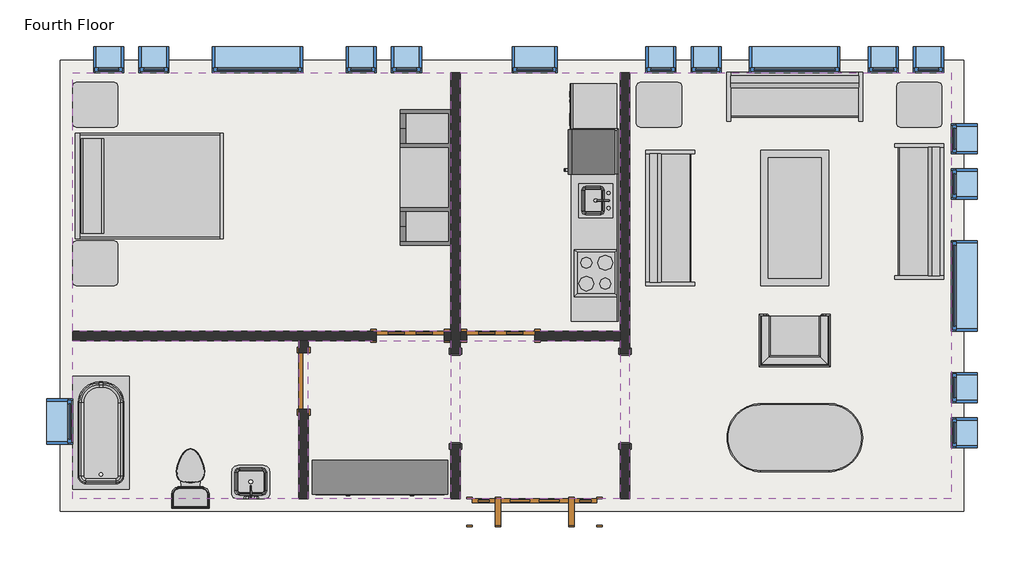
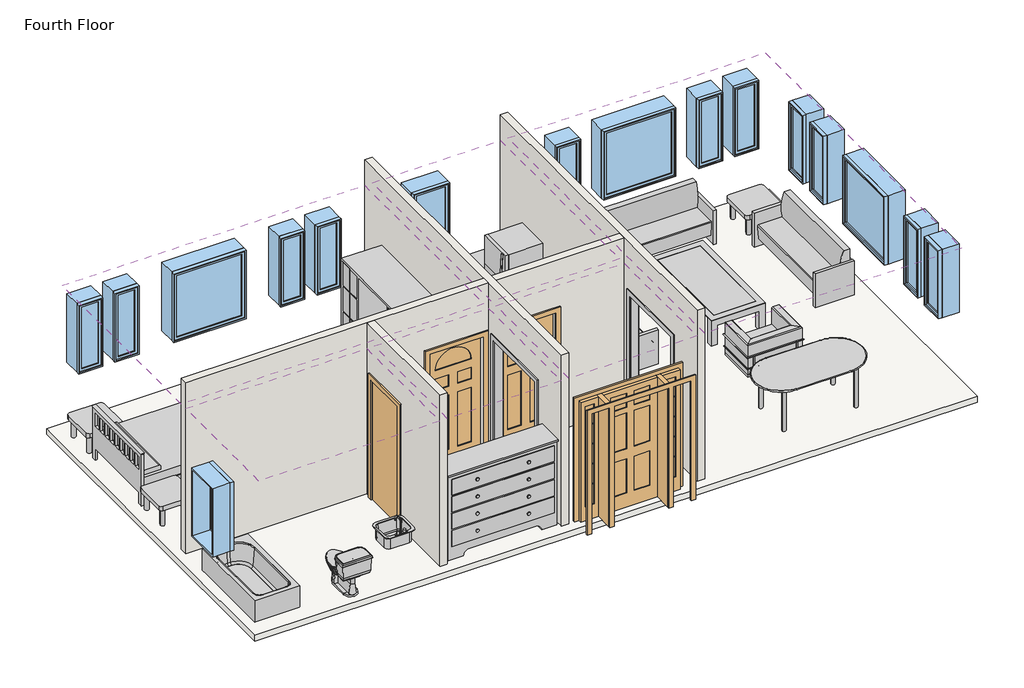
# One storey: 17 windows, 14 furniture elements, 6 coverings, 6 proxies, 5 walls, 4 doors, 4 flow terminals, 1 slab.
"""IFC4 building model written with IfcOpenShell, lengths in millimetres."""

from ifc_helpers import new_model, si_unit, frame, origin, place, context, project, spatial, polyline, outline, extrude, faceted_brep, transform, mapped, element, save
from components import proxy_dfcd9396, proxy_3c49123c, proxy_7a545507, proxy_f44482cc, proxy_ec3341c2, door_829da954, door_2e3b4da2, door_4d6c7550, door_dba5aa2e, flow_terminal_41332a36, flow_terminal_62a433f7, toilet_domestic_3d_toilet_domestic_3d_f7549cf7, toilet_domestic_3d_toilet_domestic_3d_183bbd19, tub_rectangular_3d_tub_rectangular_3d_15036965, furniture_096e7f55, chair_corbu_chair_corbu_2764bdef, furniture_6db689a5, furniture_7c473f12, furniture_cf0b6580, furniture_a4ffab56, furniture_cd93a443, furniture_2c34a4f9, furniture_3a588284, window_da97879f, window_d61ef850, window_60baf983, window_6eb97611

model = new_model("IFC4")

# Units and contexts
model_context = context("Model", 3, world=origin())
ifc_project = project(units=[si_unit("LENGTHUNIT", "METRE", prefix="MILLI")], contexts=[model_context])

# Site, building, storey
site = spatial("IfcSite", under=ifc_project)
building = spatial("IfcBuilding", under=site)
storey = spatial("IfcBuildingStorey", under=building, Name="Fourth Floor", Elevation=9144.0)

# Proxies
placement = place(None, origin())
proxy_shape = proxy_dfcd9396(model_context)
element("IfcBuildingElementProxy", 1, Name="Cook Top-4 Unit2 : 22\" x 20\"", ObjectType="Cook Top-4 Unit2 : 22\" x 20\"", at=placement, inside=storey, context=model_context, shape_type="MappedRepresentation", body=[
    mapped(proxy_shape, transform((-4167.1589563, 7568.5224391, 9144.0), x_axis=(0.0, 1.0000000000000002, 0.0), y_axis=(-1.0000000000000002, 0.0, 0.0), z_axis=(0.0, 0.0, 1.0))),
])
proxy_2_shape = proxy_3c49123c(model_context)
element("IfcBuildingElementProxy", 2, Name="Dishwasher : 24\" x 24\" x 34\"", ObjectType="Dishwasher : 24\" x 24\" x 34\"", at=placement, inside=storey, context=model_context, shape_type="MappedRepresentation", body=[
    mapped(proxy_2_shape, transform((-4459.0085211, 9434.1049706, 9144.0), x_axis=(0.0, 1.0000000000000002, 0.0), y_axis=(-1.0000000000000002, 0.0, 0.0), z_axis=(0.0, 0.0, 1.0))),
])
proxy_3_shape = proxy_7a545507(model_context)
element("IfcBuildingElementProxy", 3, Name="Kitchenette - Medium : 8'6\"", ObjectType="Kitchenette - Medium : 8'6\"", at=placement, inside=storey, context=model_context, shape_type="MappedRepresentation", body=[
    mapped(proxy_3_shape, transform((-3862.3589563, 8197.4847342, 9144.0), x_axis=(0.0, 1.0000000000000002, 0.0), y_axis=(-1.0000000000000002, 0.0, 0.0), z_axis=(0.0, 0.0, 1.0))),
])
proxy_4_shape = proxy_f44482cc(model_context)
element("IfcBuildingElementProxy", 4, Name="Opening-Cased : 48\" x 84\"", ObjectType="Opening-Cased : 48\" x 84\"", at=placement, inside=storey, context=model_context, shape_type="MappedRepresentation", body=[
    mapped(proxy_4_shape, transform((-3773.4589563, 5882.4203434, 9144.0), x_axis=(0.0, 1.0, 0.0), y_axis=(-1.0, 0.0, 0.0), z_axis=(0.0, 0.0, 1.0))),
])
element("IfcBuildingElementProxy", 5, Name="Opening-Cased : 48\" x 84\"", ObjectType="Opening-Cased : 48\" x 84\"", at=placement, inside=storey, context=model_context, shape_type="MappedRepresentation", body=[
    mapped(proxy_4_shape, transform((-6059.4589563, 5866.04303, 9144.0), x_axis=(0.0, -1.0, 0.0), y_axis=(1.0, 0.0, 0.0), z_axis=(0.0, 0.0, 1.0))),
])
proxy_5_shape = proxy_ec3341c2(model_context)
element("IfcBuildingElementProxy", 6, Name="Refrigerator : 24\" x 25\" LH", ObjectType="Refrigerator : 24\" x 25\" LH", at=placement, inside=storey, context=model_context, shape_type="MappedRepresentation", body=[
    mapped(proxy_5_shape, transform((-4212.8079278, 9200.4724391, 9144.0), x_axis=(0.0, 1.0000000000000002, 0.0), y_axis=(-1.0000000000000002, 0.0, 0.0), z_axis=(0.0, 0.0, 1.0))),
])

# Coverings
element("IfcCovering", 7, ObjectType="GWB on Mtl. Stud", at=placement, inside=storey, context=model_context, shape_type="SweptSolid", body=[
    extrude(outline(polyline([(-11217.2464563, 10270.0191867), (-6122.9589563, 10270.0191867), (-6122.9589563, 6787.0441867), (-11217.2464563, 6787.0441867), (-11217.2464563, 10270.0191867)])), frame((0.0, 0.0, 11734.8), z_axis=(0.0, 0.0, 1.0), x_axis=(1.0, 0.0, 0.0)), (0.0, 0.0, 1.0), 107.95),
])
element("IfcCovering", 8, ObjectType="GWB on Mtl. Stud", at=placement, inside=storey, context=model_context, shape_type="SweptSolid", body=[
    extrude(outline(polyline([(-5995.9589563, 6787.0441867), (-5995.9589563, 10270.0191867), (-3836.9589563, 10270.0191867), (-3836.9589563, 6787.0441867), (-5995.9589563, 6787.0441867)])), frame((0.0, 0.0, 11734.8), z_axis=(0.0, 0.0, 1.0), x_axis=(1.0, 0.0, 0.0)), (0.0, 0.0, 1.0), 107.95),
])
element("IfcCovering", 9, ObjectType="GWB on Mtl. Stud", at=placement, inside=storey, context=model_context, shape_type="SweptSolid", body=[
    extrude(outline(polyline([(-3709.9589563, 4526.4441867), (-3709.9589563, 10270.0191867), (622.3285437, 10270.0191867), (622.3285437, 4526.4441867), (-3709.9589563, 4526.4441867)])), frame((0.0, 0.0, 11734.8), z_axis=(0.0, 0.0, 1.0), x_axis=(1.0, 0.0, 0.0)), (0.0, 0.0, 1.0), 107.95),
])
element("IfcCovering", 10, ObjectType="GWB on Mtl. Stud", at=placement, inside=storey, context=model_context, shape_type="SweptSolid", body=[
    extrude(outline(polyline([(-3836.9589563, 4526.4441867), (-5995.9589563, 4526.4441867), (-5995.9589563, 6660.0441867), (-3836.9589563, 6660.0441867), (-3836.9589563, 4526.4441867)])), frame((0.0, 0.0, 11734.8), z_axis=(0.0, 0.0, 1.0), x_axis=(1.0, 0.0, 0.0)), (0.0, 0.0, 1.0), 107.95),
])
element("IfcCovering", 11, ObjectType="GWB on Mtl. Stud", at=placement, inside=storey, context=model_context, shape_type="SweptSolid", body=[
    extrude(outline(polyline([(-8169.2464563, 6660.0441867), (-8169.2464563, 4526.4441867), (-11217.2464563, 4526.4441867), (-11217.2464563, 6660.0441867), (-8169.2464563, 6660.0441867)])), frame((0.0, 0.0, 11734.8), z_axis=(0.0, 0.0, 1.0), x_axis=(1.0, 0.0, 0.0)), (0.0, 0.0, 1.0), 107.95),
])
element("IfcCovering", 12, ObjectType="GWB on Mtl. Stud", at=placement, inside=storey, context=model_context, shape_type="SweptSolid", body=[
    extrude(outline(polyline([(-6122.9589563, 4526.4441867), (-8042.2464563, 4526.4441867), (-8042.2464563, 6660.0441867), (-6122.9589563, 6660.0441867), (-6122.9589563, 4526.4441867)])), frame((0.0, 0.0, 11734.8), z_axis=(0.0, 0.0, 1.0), x_axis=(1.0, 0.0, 0.0)), (0.0, 0.0, 1.0), 107.95),
])

# Doors
door_shape = door_829da954(model_context)
element("IfcDoor", 13, ObjectType="Single-Decorative 2 : 36\" x 84\"", at=placement, inside=storey, context=model_context, shape_type="MappedRepresentation", body=[
    mapped(door_shape, transform((-5449.8589563, 6723.5441867, 9144.0), x_axis=(-1.0, 0.0, 0.0), y_axis=(0.0, -1.0, 0.0), z_axis=(0.0, 0.0, 1.0))),
])
door_2_shape = door_2e3b4da2(model_context)
element("IfcDoor", 14, ObjectType="Single-Decorative 2 : 36\" x 84\"", at=placement, inside=storey, context=model_context, shape_type="MappedRepresentation", body=[
    mapped(door_2_shape, transform((-6669.0589563, 6723.5441867, 9144.0), x_axis=(1.0, 0.0, 0.0), y_axis=(0.0, 1.0, 0.0), z_axis=(0.0, 0.0, 1.0))),
])
door_3_shape = door_4d6c7550(model_context)
element("IfcDoor", 15, ObjectType="Single-Flush : 30\" x 84\"", at=placement, inside=storey, context=model_context, shape_type="MappedRepresentation", body=[
    mapped(door_3_shape, transform((-8105.7464563, 6113.9441867, 9144.0), x_axis=(0.0, 1.0, 0.0), y_axis=(-1.0, 0.0, 0.0), z_axis=(0.0, 0.0, 1.0))),
])
door_4_shape = door_dba5aa2e(model_context)
element("IfcDoor", 16, ObjectType="Single-Raised Panel with Sidelights : 36\" x 84\"", at=placement, inside=storey, context=model_context, shape_type="MappedRepresentation", body=[
    mapped(door_4_shape, transform((-4992.6589563, 4350.2316867, 9144.0), x_axis=(-1.0, 0.0, 0.0), y_axis=(0.0, -1.0, 0.0), z_axis=(0.0, 0.0, 1.0))),
])

# Flow terminals
flow_terminal_shape = flow_terminal_41332a36(model_context)
element("IfcFlowTerminal", 17, ObjectType="Sink Kitchen-Island : 18\" x 18\"", at=placement, inside=storey, context=model_context, shape_type="MappedRepresentation", body=[
    mapped(flow_terminal_shape, transform((-4169.5043574, 8530.7331986, 9129.6), x_axis=(0.0, 1.0000000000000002, 0.0), y_axis=(-1.0000000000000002, 0.0, 0.0), z_axis=(0.0, 0.0, 1.0))),
])
flow_terminal_2_shape = flow_terminal_62a433f7(model_context)
element("IfcFlowTerminal", 18, ObjectType="Sink Vanity-Square : 20\" x 18\"", at=placement, inside=storey, context=model_context, shape_type="MappedRepresentation", body=[
    mapped(flow_terminal_2_shape, transform((-8801.2572158, 4706.5895878, 9144.0), x_axis=(-1.0, 0.0, 0.0), y_axis=(0.0, -1.0, 0.0), z_axis=(0.0, 0.0, 1.0))),
])
toilet_domestic_3d_toilet_domestic_3d_shape = toilet_domestic_3d_toilet_domestic_3d_f7549cf7(model_context)
toilet_domestic_3d_toilet_domestic_3d_2_shape = toilet_domestic_3d_toilet_domestic_3d_183bbd19(model_context)
element("IfcFlowTerminal", 19, ObjectType="Toilet-Domestic-3D : Toilet-Domestic-3D", at=placement, inside=storey, context=model_context, shape_type="MappedRepresentation", body=[
    mapped(toilet_domestic_3d_toilet_domestic_3d_shape, transform((-9629.7464563, 4894.7441867, 9144.0), x_axis=(-1.0, 0.0, 0.0), y_axis=(0.0, -1.0, 0.0), z_axis=(0.0, 0.0, 1.0))),
    mapped(toilet_domestic_3d_toilet_domestic_3d_2_shape, transform((-9629.7464563, 4894.7441867, 9144.0), x_axis=(-1.0, 0.0, 0.0), y_axis=(0.0, -1.0, 0.0), z_axis=(0.0, 0.0, 1.0))),
])
tub_rectangular_3d_tub_rectangular_3d_shape = tub_rectangular_3d_tub_rectangular_3d_15036965(model_context)
element("IfcFlowTerminal", 20, ObjectType="Tub-Rectangular-3D : Tub-Rectangular-3D", at=placement, inside=storey, context=model_context, shape_type="MappedRepresentation", body=[
    mapped(tub_rectangular_3d_tub_rectangular_3d_shape, transform((-11393.4589563, 5765.6346554, 9144.0), x_axis=(0.0, 1.0, 0.0), y_axis=(-1.0, 0.0, 0.0), z_axis=(0.0, 0.0, 1.0))),
])

# Furniture
furniture_shape = furniture_096e7f55(model_context)
element("IfcFurniture", 21, ObjectType="Bed-Shaker : Double 56\" x 78\"", at=placement, inside=storey, context=model_context, shape_type="MappedRepresentation", body=[
    mapped(furniture_shape, transform((-11172.0857802, 8763.4816867, 9144.0), x_axis=(0.0, 1.0, 0.0), y_axis=(-1.0, 0.0, 0.0), z_axis=(0.0, 0.0, 1.0))),
])
chair_corbu_chair_corbu_shape = chair_corbu_chair_corbu_2764bdef(model_context)
element("IfcFurniture", 22, ObjectType="Chair-Corbu : Chair-Corbu", at=placement, inside=storey, context=model_context, shape_type="MappedRepresentation", body=[
    mapped(chair_corbu_chair_corbu_shape, transform((-914.0851858, 7126.8212359, 9144.0), x_axis=(-1.0, 0.0, 0.0), y_axis=(0.0, -1.0, 0.0), z_axis=(0.0, 0.0, 1.0))),
])
furniture_2_shape = furniture_6db689a5(model_context)
element("IfcFurniture", 23, ObjectType="Counter Top w Sink Hole : 24\" Depth", at=placement, inside=storey, context=model_context, shape_type="MappedRepresentation", body=[
    mapped(furniture_2_shape, transform((-3862.3589563, 8121.2847342, 9129.6), x_axis=(0.0, 1.0000000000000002, 0.0), y_axis=(-1.0000000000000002, 0.0, 0.0), z_axis=(0.0, 0.0, 1.0))),
])
furniture_3_shape = furniture_7c473f12(model_context)
element("IfcFurniture", 24, ObjectType="Dresser : 72\" x 60\" x 18\"", at=placement, inside=storey, context=model_context, shape_type="MappedRepresentation", body=[
    mapped(furniture_3_shape, transform((-6806.2656965, 5181.7071408, 9144.0), x_axis=(1.0, 0.0, 0.0), y_axis=(0.0, 1.0, 0.0), z_axis=(0.0, 0.0, 1.0))),
])
furniture_4_shape = furniture_cf0b6580(model_context)
element("IfcFurniture", 25, ObjectType="Entertainment Center : 72\" x 72\" x 24\"", at=placement, inside=storey, context=model_context, shape_type="MappedRepresentation", body=[
    mapped(furniture_4_shape, transform((-6021.3589563, 8857.1441867, 9144.0), x_axis=(0.0, -1.0, 0.0), y_axis=(1.0, 0.0, 0.0), z_axis=(0.0, 0.0, 1.0))),
])
furniture_5_shape = furniture_a4ffab56(model_context)
element("IfcFurniture", 26, ObjectType="Sofa : 72\"", at=placement, inside=storey, context=model_context, shape_type="MappedRepresentation", body=[
    mapped(furniture_5_shape, transform((-3017.704858, 8242.2611949, 9144.0), x_axis=(0.0, 1.0, 0.0), y_axis=(-1.0, 0.0, 0.0), z_axis=(0.0, 0.0, 1.0))),
])
element("IfcFurniture", 27, ObjectType="Sofa : 72\"", at=placement, inside=storey, context=model_context, shape_type="MappedRepresentation", body=[
    mapped(furniture_5_shape, transform((-1557.8294481, 9801.5748071, 9144.0), x_axis=(1.0, 0.0, 0.0), y_axis=(0.0, 1.0, 0.0), z_axis=(0.0, 0.0, 1.0))),
])
element("IfcFurniture", 28, ObjectType="Sofa : 72\"", at=placement, inside=storey, context=model_context, shape_type="MappedRepresentation", body=[
    mapped(furniture_5_shape, transform((42.7869453, 8470.3146785, 9144.0), x_axis=(0.0, -1.0, 0.0), y_axis=(1.0, 0.0, 0.0), z_axis=(0.0, 0.0, 1.0))),
])
furniture_6_shape = furniture_cd93a443(model_context)
element("IfcFurniture", 29, ObjectType="Table-Coffee : 36\" x 72\" x 18\"", at=placement, inside=storey, context=model_context, shape_type="MappedRepresentation", body=[
    mapped(furniture_6_shape, transform((-1392.2478785, 8294.36592, 9144.0), x_axis=(0.0, 1.0, 0.0), y_axis=(-1.0, 0.0, 0.0), z_axis=(0.0, 0.0, 1.0))),
])
furniture_7_shape = furniture_2c34a4f9(model_context)
element("IfcFurniture", 30, ObjectType="Table-Dining Oval : 36\" x 72\"", at=placement, inside=storey, context=model_context, shape_type="MappedRepresentation", body=[
    mapped(furniture_7_shape, transform((-1085.6392842, 5710.0425473, 9144.0), x_axis=(1.0, 0.0, 0.0), y_axis=(0.0, 1.0, 0.0), z_axis=(0.0, 0.0, 1.0))),
])
furniture_8_shape = furniture_3a588284(model_context)
element("IfcFurniture", 31, ObjectType="Table-End : 24\" x 24\"", at=placement, inside=storey, context=model_context, shape_type="MappedRepresentation", body=[
    mapped(furniture_8_shape, transform((-119.5925866, 9684.2316867, 9144.0), x_axis=(1.0, 0.0, 0.0), y_axis=(0.0, 1.0, 0.0), z_axis=(0.0, 0.0, 1.0))),
])
element("IfcFurniture", 32, ObjectType="Table-End : 24\" x 24\"", at=placement, inside=storey, context=model_context, shape_type="MappedRepresentation", body=[
    mapped(furniture_8_shape, transform((-11220.9800866, 7550.6316867, 9144.0), x_axis=(1.0, 0.0, 0.0), y_axis=(0.0, 1.0, 0.0), z_axis=(0.0, 0.0, 1.0))),
])
element("IfcFurniture", 33, ObjectType="Table-End : 24\" x 24\"", at=placement, inside=storey, context=model_context, shape_type="MappedRepresentation", body=[
    mapped(furniture_8_shape, transform((-11220.9800866, 9684.2316867, 9144.0), x_axis=(1.0, 0.0, 0.0), y_axis=(0.0, 1.0, 0.0), z_axis=(0.0, 0.0, 1.0))),
])
element("IfcFurniture", 34, ObjectType="Table-End : 24\" x 24\"", at=placement, inside=storey, context=model_context, shape_type="MappedRepresentation", body=[
    mapped(furniture_8_shape, transform((-3624.7925866, 9684.2316867, 9144.0), x_axis=(1.0, 0.0, 0.0), y_axis=(0.0, 1.0, 0.0), z_axis=(0.0, 0.0, 1.0))),
])

# Slab
element("IfcSlab", 35, ObjectType="LW Concrete on Metal Deck", at=placement, inside=storey, context=model_context, shape_type="SweptSolid", body=[
    extrude(outline(polyline([(787.4285437, 10435.1191867), (787.4285437, 4361.3441867), (-11382.3464563, 4361.3441867), (-11382.3464563, 10435.1191867), (787.4285437, 10435.1191867)])), frame((0.0, 0.0, 9039.225), z_axis=(0.0, 0.0, 1.0), x_axis=(1.0, 0.0, 0.0)), (0.0, 0.0, 1.0), 104.775),
])

# Walls
element("IfcWall", 36, ObjectType="Interior - 5\" Partition (2-hr)", at=placement, inside=storey, context=model_context, shape_type="Brep", body=[
    faceted_brep([(-3836.9589563, 10270.0191867, 9144.0), (-3836.9589563, 6787.0441867, 9144.0), (-3836.9589563, 6660.0441867, 9144.0), (-3836.9589563, 6483.8316867, 9144.0), (-3836.9589563, 6483.8316867, 11277.6), (-3836.9589563, 5264.6316867, 11277.6), (-3836.9589563, 5264.6316867, 9144.0), (-3836.9589563, 4526.4441867, 9144.0), (-3836.9589563, 4526.4441867, 12192.0), (-3836.9589563, 6660.0441867, 12192.0), (-3836.9589563, 6787.0441867, 12192.0), (-3836.9589563, 10270.0191867, 12192.0), (-3709.9589563, 6483.8316867, 11277.6), (-3709.9589563, 6483.8316867, 9144.0), (-3709.9589563, 10270.0191867, 9144.0), (-3709.9589563, 10270.0191867, 12192.0), (-3709.9589563, 4526.4441867, 12192.0), (-3709.9589563, 4526.4441867, 9144.0), (-3709.9589563, 5264.6316867, 9144.0), (-3709.9589563, 5264.6316867, 11277.6)], [[[0, 1, 2, 3, 4, 5, 6, 7, 8, 9, 10, 11]], [[12, 13, 14, 15, 16, 17, 18, 19]], [[14, 13, 3, 2, 1, 0]], [[18, 17, 7, 6]], [[11, 10, 9, 8, 16, 15]], [[0, 11, 15, 14]], [[8, 7, 17, 16]], [[6, 5, 19, 18]], [[4, 3, 13, 12]], [[5, 4, 12, 19]]]),
])
element("IfcWall", 37, ObjectType="Interior - 5\" Partition (2-hr)", at=placement, inside=storey, context=model_context, shape_type="Brep", body=[
    faceted_brep([(-6122.9589563, 5264.6316867, 11277.6), (-6122.9589563, 5264.6316867, 9144.0), (-6122.9589563, 4526.4441867, 9144.0), (-6122.9589563, 4526.4441867, 12192.0), (-6122.9589563, 6660.0441867, 12192.0), (-6122.9589563, 6787.0441867, 12192.0), (-6122.9589563, 10270.0191867, 12192.0), (-6122.9589563, 10270.0191867, 9144.0), (-6122.9589563, 6787.0441867, 9144.0), (-6122.9589563, 6660.0441867, 9144.0), (-6122.9589563, 6483.8316867, 9144.0), (-6122.9589563, 6483.8316867, 11277.6), (-5995.9589563, 4526.4441867, 9144.0), (-5995.9589563, 5264.6316867, 9144.0), (-5995.9589563, 5264.6316867, 11277.6), (-5995.9589563, 6483.8316867, 11277.6), (-5995.9589563, 6483.8316867, 9144.0), (-5995.9589563, 6660.0441867, 9144.0), (-5995.9589563, 6787.0441867, 9144.0), (-5995.9589563, 10270.0191867, 9144.0), (-5995.9589563, 10270.0191867, 12192.0), (-5995.9589563, 6787.0441867, 12192.0), (-5995.9589563, 6660.0441867, 12192.0), (-5995.9589563, 4526.4441867, 12192.0)], [[[0, 1, 2, 3, 4, 5, 6, 7, 8, 9, 10, 11]], [[12, 13, 14, 15, 16, 17, 18, 19, 20, 21, 22, 23]], [[2, 1, 13, 12]], [[10, 9, 8, 7, 19, 18, 17, 16]], [[6, 5, 4, 3, 23, 22, 21, 20]], [[7, 6, 20, 19]], [[3, 2, 12, 23]], [[16, 15, 11, 10]], [[14, 13, 1, 0]], [[15, 14, 0, 11]]]),
])
element("IfcWall", 38, ObjectType="Interior - 5\" Partition (2-hr)", at=placement, inside=storey, context=model_context, shape_type="Brep", body=[
    faceted_brep([(-6211.8589563, 6660.0441867, 11277.6), (-6211.8589563, 6660.0441867, 9144.0), (-6122.9589563, 6660.0441867, 9144.0), (-6122.9589563, 6660.0441867, 12192.0), (-8042.2464563, 6660.0441867, 12192.0), (-8169.2464563, 6660.0441867, 12192.0), (-11217.2464563, 6660.0441867, 12192.0), (-11217.2464563, 6660.0441867, 9144.0), (-8169.2464563, 6660.0441867, 9144.0), (-8042.2464563, 6660.0441867, 9144.0), (-7126.2589563, 6660.0441867, 9144.0), (-7126.2589563, 6660.0441867, 11277.6), (-6122.9589563, 6787.0441867, 9144.0), (-6211.8589563, 6787.0441867, 9144.0), (-6211.8589563, 6787.0441867, 11277.6), (-7126.2589563, 6787.0441867, 11277.6), (-7126.2589563, 6787.0441867, 9144.0), (-11217.2464563, 6787.0441867, 9144.0), (-11217.2464563, 6787.0441867, 12192.0), (-6122.9589563, 6787.0441867, 12192.0)], [[[0, 1, 2, 3, 4, 5, 6, 7, 8, 9, 10, 11]], [[12, 13, 14, 15, 16, 17, 18, 19]], [[2, 1, 13, 12]], [[10, 9, 8, 7, 17, 16]], [[6, 5, 4, 3, 19, 18]], [[3, 2, 12, 19]], [[7, 6, 18, 17]], [[14, 13, 1, 0]], [[15, 14, 0, 11]], [[16, 15, 11, 10]]]),
])
element("IfcWall", 39, ObjectType="Interior - 5\" Partition (2-hr)", at=placement, inside=storey, context=model_context, shape_type="SweptSolid", body=[
    extrude(outline(polyline([(6660.0441867, 9144.0), (6494.9441867, 9144.0), (6494.9441867, 11277.6), (5732.9441867, 11277.6), (5732.9441867, 9144.0), (4526.4441867, 9144.0), (4526.4441867, 12192.0), (6660.0441867, 12192.0), (6660.0441867, 9144.0)])), frame((-8169.2464563, 0.0, 0.0), z_axis=(1.0, 0.0, 0.0), x_axis=(0.0, 1.0, 0.0)), (0.0, 0.0, 1.0), 127.0),
])
element("IfcWall", 40, ObjectType="Interior - 5\" Partition (2-hr)", at=placement, inside=storey, context=model_context, shape_type="SweptSolid", body=[
    extrude(outline(polyline([(9144.0, -5995.9589563), (9144.0, -5907.0589563), (11277.6, -5907.0589563), (11277.6, -4992.6589563), (9144.0, -4992.6589563), (9144.0, -3836.9589563), (12192.0, -3836.9589563), (12192.0, -5995.9589563), (9144.0, -5995.9589563)])), frame((0.0, 6660.0441867, 0.0), z_axis=(0.0, 1.0, 0.0), x_axis=(0.0, 0.0, 1.0)), (0.0, 0.0, 1.0), 127.0),
])

# Windows
window_shape = window_da97879f(model_context)
element("IfcWindow", 41, ObjectType="Fixed : 16\" x 48\"", at=placement, inside=storey, context=model_context, shape_type="MappedRepresentation", body=[
    mapped(window_shape, transform((-10771.1589563, 10446.2316867, 9144.0), x_axis=(-1.0, 0.0, 0.0), y_axis=(0.0, -1.0, 0.0), z_axis=(0.0, 0.0, 1.0))),
])
element("IfcWindow", 42, ObjectType="Fixed : 16\" x 48\"", at=placement, inside=storey, context=model_context, shape_type="MappedRepresentation", body=[
    mapped(window_shape, transform((-10161.5589563, 10446.2316867, 9144.0), x_axis=(-1.0, 0.0, 0.0), y_axis=(0.0, -1.0, 0.0), z_axis=(0.0, 0.0, 1.0))),
])
element("IfcWindow", 43, ObjectType="Fixed : 16\" x 48\"", at=placement, inside=storey, context=model_context, shape_type="MappedRepresentation", body=[
    mapped(window_shape, transform((-3328.9589563, 10446.2316867, 9144.0), x_axis=(-1.0, 0.0, 0.0), y_axis=(0.0, -1.0, 0.0), z_axis=(0.0, 0.0, 1.0))),
])
element("IfcWindow", 44, ObjectType="Fixed : 16\" x 48\"", at=placement, inside=storey, context=model_context, shape_type="MappedRepresentation", body=[
    mapped(window_shape, transform((-2719.3589563, 10446.2316867, 9144.0), x_axis=(-1.0, 0.0, 0.0), y_axis=(0.0, -1.0, 0.0), z_axis=(0.0, 0.0, 1.0))),
])
element("IfcWindow", 45, ObjectType="Fixed : 16\" x 48\"", at=placement, inside=storey, context=model_context, shape_type="MappedRepresentation", body=[
    mapped(window_shape, transform((798.5410437, 9417.5316867, 9144.0), x_axis=(0.0, 1.0, 0.0), y_axis=(-1.0, 0.0, 0.0), z_axis=(0.0, 0.0, 1.0))),
])
element("IfcWindow", 46, ObjectType="Fixed : 16\" x 48\"", at=placement, inside=storey, context=model_context, shape_type="MappedRepresentation", body=[
    mapped(window_shape, transform((798.5410437, 8807.9316867, 9144.0), x_axis=(0.0, 1.0, 0.0), y_axis=(-1.0, 0.0, 0.0), z_axis=(0.0, 0.0, 1.0))),
])
window_2_shape = window_d61ef850(model_context)
element("IfcWindow", 47, ObjectType="Fixed : 16\" x 48\"", at=placement, inside=storey, context=model_context, shape_type="MappedRepresentation", body=[
    mapped(window_2_shape, transform((-6681.7589563, 10446.2316867, 9144.0), x_axis=(1.0, 0.0, 0.0), y_axis=(0.0, 1.0, 0.0), z_axis=(0.0, 0.0, 1.0))),
])
element("IfcWindow", 48, ObjectType="Fixed : 16\" x 48\"", at=placement, inside=storey, context=model_context, shape_type="MappedRepresentation", body=[
    mapped(window_2_shape, transform((-7291.3589563, 10446.2316867, 9144.0), x_axis=(1.0, 0.0, 0.0), y_axis=(0.0, 1.0, 0.0), z_axis=(0.0, 0.0, 1.0))),
])
element("IfcWindow", 49, ObjectType="Fixed : 16\" x 48\"", at=placement, inside=storey, context=model_context, shape_type="MappedRepresentation", body=[
    mapped(window_2_shape, transform((354.0410437, 10446.2316867, 9144.0), x_axis=(1.0, 0.0, 0.0), y_axis=(0.0, 1.0, 0.0), z_axis=(0.0, 0.0, 1.0))),
])
element("IfcWindow", 50, ObjectType="Fixed : 16\" x 48\"", at=placement, inside=storey, context=model_context, shape_type="MappedRepresentation", body=[
    mapped(window_2_shape, transform((-255.5589563, 10446.2316867, 9144.0), x_axis=(1.0, 0.0, 0.0), y_axis=(0.0, 1.0, 0.0), z_axis=(0.0, 0.0, 1.0))),
])
element("IfcWindow", 51, ObjectType="Fixed : 16\" x 48\"", at=placement, inside=storey, context=model_context, shape_type="MappedRepresentation", body=[
    mapped(window_2_shape, transform((798.5410437, 5378.9316867, 9144.0), x_axis=(0.0, -1.0, 0.0), y_axis=(1.0, 0.0, 0.0), z_axis=(0.0, 0.0, 1.0))),
])
element("IfcWindow", 52, ObjectType="Fixed : 16\" x 48\"", at=placement, inside=storey, context=model_context, shape_type="MappedRepresentation", body=[
    mapped(window_2_shape, transform((798.5410437, 5988.5316867, 9144.0), x_axis=(0.0, -1.0, 0.0), y_axis=(1.0, 0.0, 0.0), z_axis=(0.0, 0.0, 1.0))),
])
window_3_shape = window_60baf983(model_context)
element("IfcWindow", 53, ObjectType="Fixed : 24\" x 48\"", at=placement, inside=storey, context=model_context, shape_type="MappedRepresentation", body=[
    mapped(window_3_shape, transform((-5030.7589563, 10446.2316867, 9144.0), x_axis=(-1.0, 0.0, 0.0), y_axis=(0.0, -1.0, 0.0), z_axis=(0.0, 0.0, 1.0))),
])
element("IfcWindow", 54, ObjectType="Fixed : 24\" x 48\"", at=placement, inside=storey, context=model_context, shape_type="MappedRepresentation", body=[
    mapped(window_3_shape, transform((-11393.4589563, 5531.3316867, 9144.0), x_axis=(0.0, -1.0, 0.0), y_axis=(1.0, 0.0, 0.0), z_axis=(0.0, 0.0, 1.0))),
])
window_4_shape = window_6eb97611(model_context)
element("IfcWindow", 55, ObjectType="Fixed : 48\" x 48\"", at=placement, inside=storey, context=model_context, shape_type="MappedRepresentation", body=[
    mapped(window_4_shape, transform((-8764.5589563, 10446.2316867, 9144.0), x_axis=(-1.0, 0.0, 0.0), y_axis=(0.0, -1.0, 0.0), z_axis=(0.0, 0.0, 1.0))),
])
element("IfcWindow", 56, ObjectType="Fixed : 48\" x 48\"", at=placement, inside=storey, context=model_context, shape_type="MappedRepresentation", body=[
    mapped(window_4_shape, transform((-1525.5589563, 10446.2316867, 9144.0), x_axis=(-1.0, 0.0, 0.0), y_axis=(0.0, -1.0, 0.0), z_axis=(0.0, 0.0, 1.0))),
])
element("IfcWindow", 57, ObjectType="Fixed : 48\" x 48\"", at=placement, inside=storey, context=model_context, shape_type="MappedRepresentation", body=[
    mapped(window_4_shape, transform((798.5410437, 7436.3316867, 9144.0), x_axis=(0.0, 1.0, 0.0), y_axis=(-1.0, 0.0, 0.0), z_axis=(0.0, 0.0, 1.0))),
])

save(model, "model.ifc")
